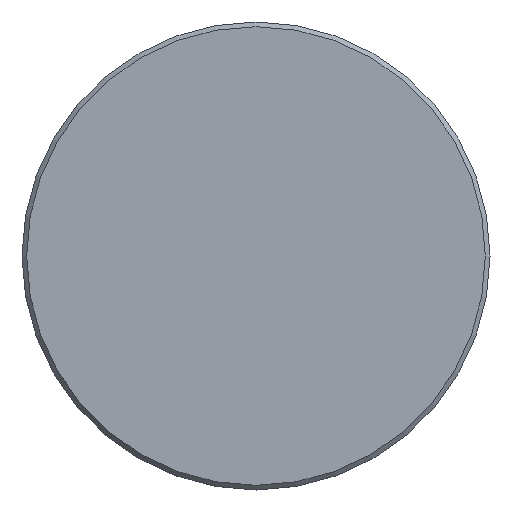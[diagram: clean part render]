
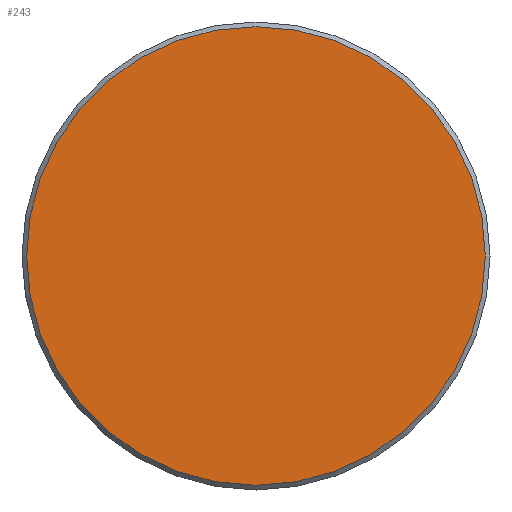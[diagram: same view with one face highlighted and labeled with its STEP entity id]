
A CAD part, front view. The second image highlights one B-rep face of the part: STEP entity #243.
In plain terms, the highlighted planar face has unit normal (0, -1, 0).
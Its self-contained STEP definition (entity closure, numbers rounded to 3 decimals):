
#243 = ADVANCED_FACE( '', ( #464 ), #465, .F. );
#464 = FACE_OUTER_BOUND( '', #664, .T. );
#465 = PLANE( '', #665 );
#664 = EDGE_LOOP( '', ( #1076 ) );
#665 = AXIS2_PLACEMENT_3D( '', #1077, #1078, #1079 );
#1076 = ORIENTED_EDGE( '', *, *, #1145, .T. );
#1077 = CARTESIAN_POINT( '', ( 24.5, 0., 0. ) );
#1078 = DIRECTION( '', ( 0., 1., 0. ) );
#1079 = DIRECTION( '', ( 0., 0., 1. ) );
#1145 = EDGE_CURVE( '', #1329, #1329, #1330, .T. );
#1329 = VERTEX_POINT( '', #1664 );
#1330 = CIRCLE( '', #1665, 24.5 );
#1664 = CARTESIAN_POINT( '', ( 0., 0., -24.5 ) );
#1665 = AXIS2_PLACEMENT_3D( '', #2009, #2010, #2011 );
#2009 = CARTESIAN_POINT( '', ( 0., 0., 0. ) );
#2010 = DIRECTION( '', ( 0., -1., 0. ) );
#2011 = DIRECTION( '', ( 0., 0., -1. ) );
